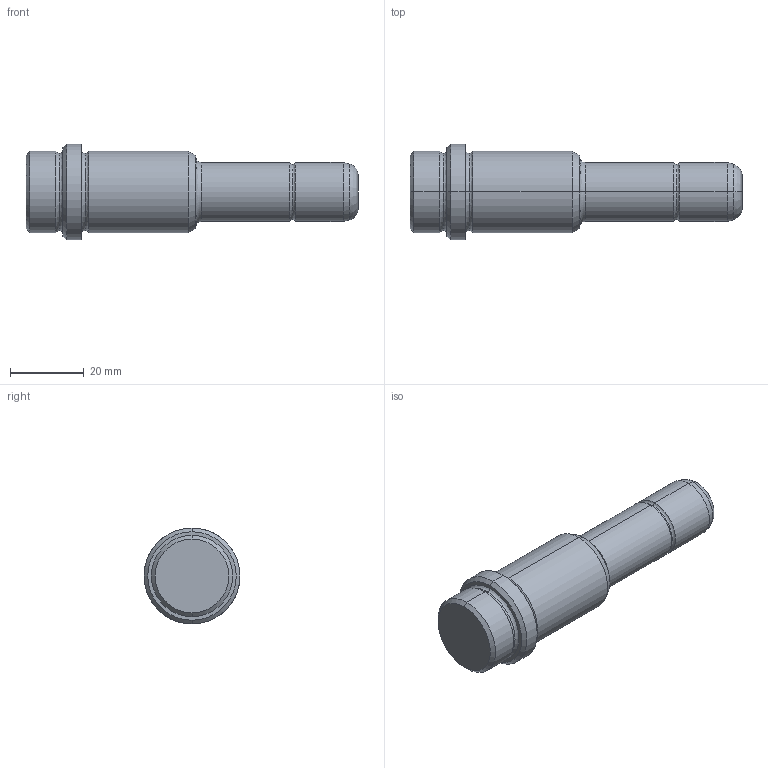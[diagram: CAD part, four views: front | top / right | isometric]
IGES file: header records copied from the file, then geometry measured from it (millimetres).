
Start section: START RECORD GO HERE.
Global section: file name: 357-16X46X90.igs; native system: DASSAULT SYSTEMES CATIA V5 R20 - www.3ds.com; preprocessor: CATIA Version 5 Release 20 ; author: Utente; organization: NB04-ASUS; date: 20210814.110539; units: millimetre
Bounding box: 90 x 26 x 26 mm (x, y, z)
Surface area: 6294.3 mm2 (no closed solid volume)
Topology: 0 solids, 0 shells, 39 faces, 224 edges, 224 vertices
Faces by surface type: revolution 34, plane 5
